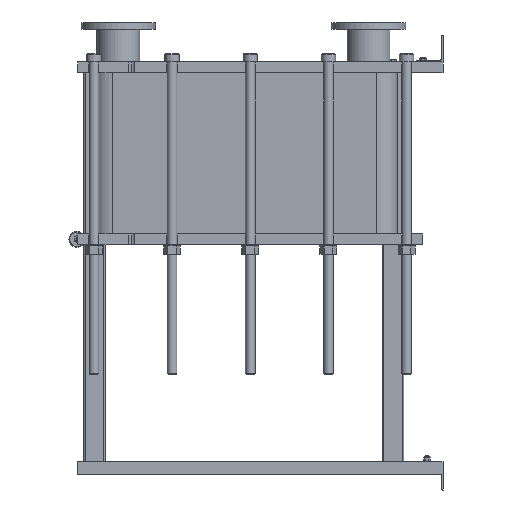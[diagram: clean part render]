
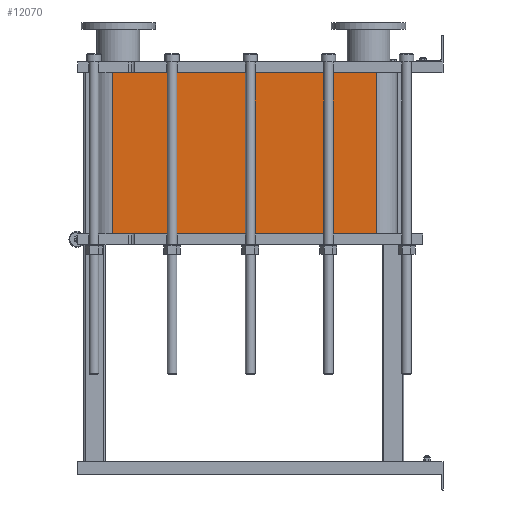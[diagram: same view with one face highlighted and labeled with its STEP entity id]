
A CAD part, left-side view. The second image highlights one B-rep face of the part: STEP entity #12070.
In plain terms, the highlighted planar face has unit normal (-1, 0, 0).
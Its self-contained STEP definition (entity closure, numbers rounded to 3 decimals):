
#1064=LINE('',#21140,#2164);
#1065=LINE('',#21144,#2165);
#1066=LINE('',#21146,#2166);
#1067=LINE('',#21147,#2167);
#2164=VECTOR('',#15790,10.);
#2165=VECTOR('',#15795,10.);
#2166=VECTOR('',#15796,10.);
#2167=VECTOR('',#15797,10.);
#3304=FACE_OUTER_BOUND('',#4091,.T.);
#4091=EDGE_LOOP('',(#9793,#9794,#9795,#9796));
#5677=VERTEX_POINT('',#21137);
#5678=VERTEX_POINT('',#21139);
#5679=VERTEX_POINT('',#21143);
#5680=VERTEX_POINT('',#21145);
#7118=EDGE_CURVE('',#5678,#5677,#1064,.T.);
#7120=EDGE_CURVE('',#5677,#5679,#1065,.T.);
#7121=EDGE_CURVE('',#5680,#5679,#1066,.T.);
#7122=EDGE_CURVE('',#5680,#5678,#1067,.T.);
#9793=ORIENTED_EDGE('',*,*,#7120,.T.);
#9794=ORIENTED_EDGE('',*,*,#7121,.F.);
#9795=ORIENTED_EDGE('',*,*,#7122,.T.);
#9796=ORIENTED_EDGE('',*,*,#7118,.T.);
#11441=PLANE('',#13191);
#12070=ADVANCED_FACE('',(#3304),#11441,.T.);
#13191=AXIS2_PLACEMENT_3D('',#21142,#15793,#15794);
#15790=DIRECTION('',(0.,0.,-1.));
#15793=DIRECTION('center_axis',(-1.,0.,0.));
#15794=DIRECTION('ref_axis',(0.,1.,0.));
#15795=DIRECTION('',(0.,-1.,0.));
#15796=DIRECTION('',(0.,0.,-1.));
#15797=DIRECTION('',(0.,1.,0.));
#21137=CARTESIAN_POINT('',(-248.152,1243.818,-607.2));
#21139=CARTESIAN_POINT('',(-248.152,1243.818,0.));
#21140=CARTESIAN_POINT('',(-248.152,1243.818,0.));
#21142=CARTESIAN_POINT('Origin',(-248.152,251.818,0.));
#21143=CARTESIAN_POINT('',(-248.152,251.818,-607.2));
#21144=CARTESIAN_POINT('',(-248.152,499.818,-607.2));
#21145=CARTESIAN_POINT('',(-248.152,251.818,0.));
#21146=CARTESIAN_POINT('',(-248.152,251.818,0.));
#21147=CARTESIAN_POINT('',(-248.152,251.818,0.));
